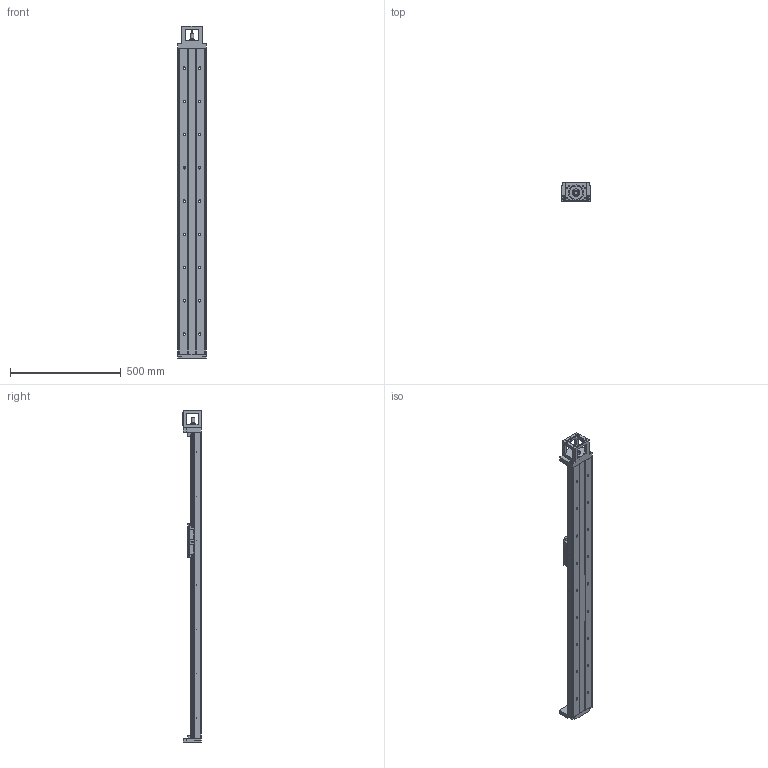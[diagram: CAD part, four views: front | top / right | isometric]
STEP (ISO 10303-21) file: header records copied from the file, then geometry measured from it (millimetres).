
FILE_DESCRIPTION(/* description */ (''),/* implementation_level */ '2;1');
FILE_NAME(/* name */ 'TKK130-1380A1F0_stp.stp',/* time_stamp */ '2017-08-18T10:25:27+08:00',/* author */ (''),/* organization */ (''),/* preprocessor_version */ 'ST-DEVELOPER v15',/* originating_system */ 'SIEMENS PLM Software NX 8.5',/* authorisation */ '');
FILE_SCHEMA (('AUTOMOTIVE_DESIGN { 1 0 10303 214 3 1 1 1 }'));
Length unit declared in the file: millimetre
Products named in the file (3): 02; 01; TKK130-1380A1F0_stp
Assembly tree (2 placements, depth 2):
  TKK130-1380A1F0_stp
    01
    02
Bounding box: 130 x 85 x 1498 mm (x, y, z)
Volume: 5559416.7 mm3; surface area: 903369.9 mm2
Topology: 2 solids, 38 shells, 1005 faces, 2622 edges, 1698 vertices
Faces by surface type: plane 556, cylinder 292, cone 117, extrusion 33, bspline 6, torus 1
Full cylindrical faces by diameter (mm): 2.1 x14, 2.5 x4, 3.3 x56, 4.5 x16, 5 x23, 6.6 x10, 6.8 x8, 7 x2, 8 x8, 8.5 x4, 9 x8, 11 x22, 12 x4, 15 x1, 16.3 x1, 17 x20, 25 x1, 35 x2, 40 x3, 60.03 x1, 70.03 x1
Entity records: 29874 total; most frequent: CARTESIAN_POINT 6388, DIRECTION 4569, ORIENTED_EDGE 4178, EDGE_CURVE 2089, AXIS2_PLACEMENT_3D 1617, VERTEX_POINT 1584, EDGE_LOOP 1431, VECTOR 1335
